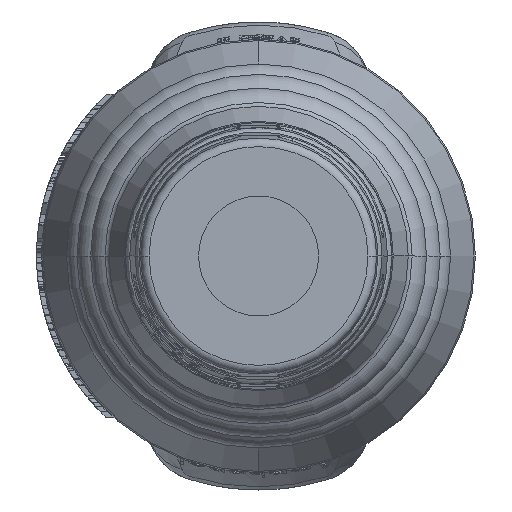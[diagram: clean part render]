
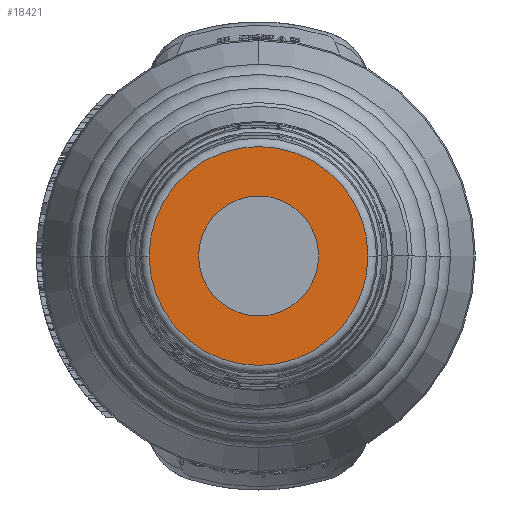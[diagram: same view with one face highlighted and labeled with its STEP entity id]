
A CAD part, left-side view. The second image highlights one B-rep face of the part: STEP entity #18421.
In plain terms, the highlighted planar face has unit normal (-1, 0, 0).
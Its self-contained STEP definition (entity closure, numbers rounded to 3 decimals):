
#42=CARTESIAN_POINT('',(94.975,1.35,0.));
#43=DIRECTION('',(1.,0.,0.));
#44=DIRECTION('',(0.,-1.,0.));
#45=AXIS2_PLACEMENT_3D('',#42,#43,#44);
#47=CARTESIAN_POINT('',(94.975,1.35,0.));
#48=DIRECTION('',(1.,0.,0.));
#49=DIRECTION('',(0.,1.,0.));
#50=AXIS2_PLACEMENT_3D('',#47,#48,#49);
#52=CARTESIAN_POINT('',(94.975,1.35,0.));
#53=DIRECTION('',(-1.,0.,0.));
#54=DIRECTION('',(0.,0.,-1.));
#55=AXIS2_PLACEMENT_3D('',#52,#53,#54);
#57=CARTESIAN_POINT('',(94.975,1.35,0.));
#58=DIRECTION('',(-1.,0.,0.));
#59=DIRECTION('',(0.,0.,1.));
#60=AXIS2_PLACEMENT_3D('',#57,#58,#59);
#16415=CARTESIAN_POINT('',(94.975,-5.032,
0.));
#16417=VERTEX_POINT('',#16415);
#16419=CARTESIAN_POINT('',(94.975,7.732,
0.));
#16421=VERTEX_POINT('',#16419);
#18325=CARTESIAN_POINT('',(94.975,1.35,-3.5));
#18326=CARTESIAN_POINT('',(94.975,1.35,3.5));
#18327=VERTEX_POINT('',#18325);
#18328=VERTEX_POINT('',#18326);
#18404=CARTESIAN_POINT('',(94.975,1.35,0.));
#18405=DIRECTION('',(-1.,0.,0.));
#18406=DIRECTION('',(0.,1.,0.));
#18407=AXIS2_PLACEMENT_3D('',#18404,#18405,#18406);
#18408=PLANE('',#18407);
#18410=ORIENTED_EDGE('',*,*,#18409,.T.);
#18412=ORIENTED_EDGE('',*,*,#18411,.T.);
#18413=EDGE_LOOP('',(#18410,#18412));
#18414=FACE_OUTER_BOUND('',#18413,.F.);
#18416=ORIENTED_EDGE('',*,*,#18415,.T.);
#18418=ORIENTED_EDGE('',*,*,#18417,.T.);
#18419=EDGE_LOOP('',(#18416,#18418));
#18420=FACE_BOUND('',#18419,.F.);
#18421=ADVANCED_FACE('',(#18414,#18420),#18408,.T.);
#46=CIRCLE('',#45,6.382);
#51=CIRCLE('',#50,6.382);
#56=CIRCLE('',#55,3.5);
#61=CIRCLE('',#60,3.5);
#18409=EDGE_CURVE('',#16417,#16421,#46,.T.);
#18411=EDGE_CURVE('',#16421,#16417,#51,.T.);
#18415=EDGE_CURVE('',#18327,#18328,#56,.T.);
#18417=EDGE_CURVE('',#18328,#18327,#61,.T.);
